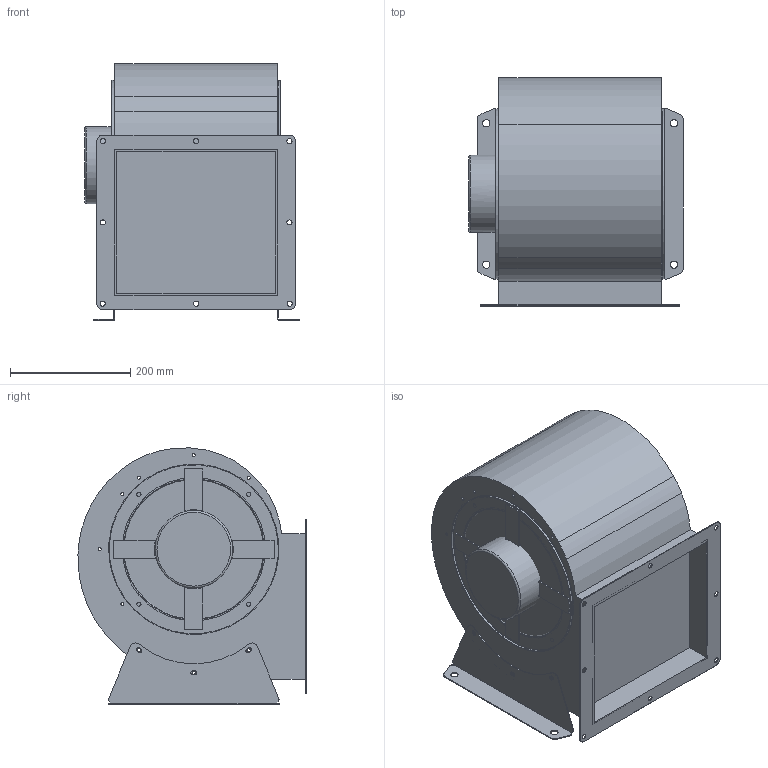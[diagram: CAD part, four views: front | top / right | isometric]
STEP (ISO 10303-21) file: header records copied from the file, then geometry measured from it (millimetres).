
FILE_DESCRIPTION(/* description */ ('Unknown'),/* implementation_level */ '2;1');
FILE_NAME(/* name */ 'CY230DMF4P3Q-EG 型錄',/* time_stamp */ '2026-03-19T16:11:37+08:00',/* author */ ('Unknown'),/* organization */ ('Unknown'),/* preprocessor_version */ 'ST-DEVELOPER v20',/* originating_system */ 'Solid Edge',/* authorisation */ 'Unknown');
FILE_SCHEMA (('AUTOMOTIVE_DESIGN {1 0 10303 214 3 1 1}'));
Length unit declared in the file: millimetre
Products named in the file (6): CY230DMF4P3Q-EG 型; CY230DM-01; CY230-08; JM230DM4P3-EG; CY230DM-04-2; CY230DM-07
Assembly tree (7 placements, depth 2):
  CY230DMF4P3Q-EG 型
    CY230DM-01
    CY230-08  x2
    JM230DM4P3-EG
    CY230DM-04-2
    CY230DM-07  x2
Bounding box: 356.1 x 378.98 x 425.68 mm (x, y, z)
Volume: 31354081 mm3; surface area: 1141416.4 mm2
Topology: 7 solids, 7 shells, 211 faces, 541 edges, 356 vertices
Faces by surface type: cylinder 111, plane 80, torus 12, cone 6, bspline 2
Full cylindrical faces by diameter (mm): 5.2 x9, 7 x16, 8.5 x8, 12.1 x4, 14 x1, 15 x1, 43.5 x1, 128.5 x1, 238 x3, 275 x1, 281 x2, 283 x2
Entity records: 4961 total; most frequent: CARTESIAN_POINT 882, DIRECTION 852, ORIENTED_EDGE 688, AXIS2_PLACEMENT_3D 354, EDGE_CURVE 344, EDGE_LOOP 306, FACE_BOUND 306, VERTEX_POINT 260
